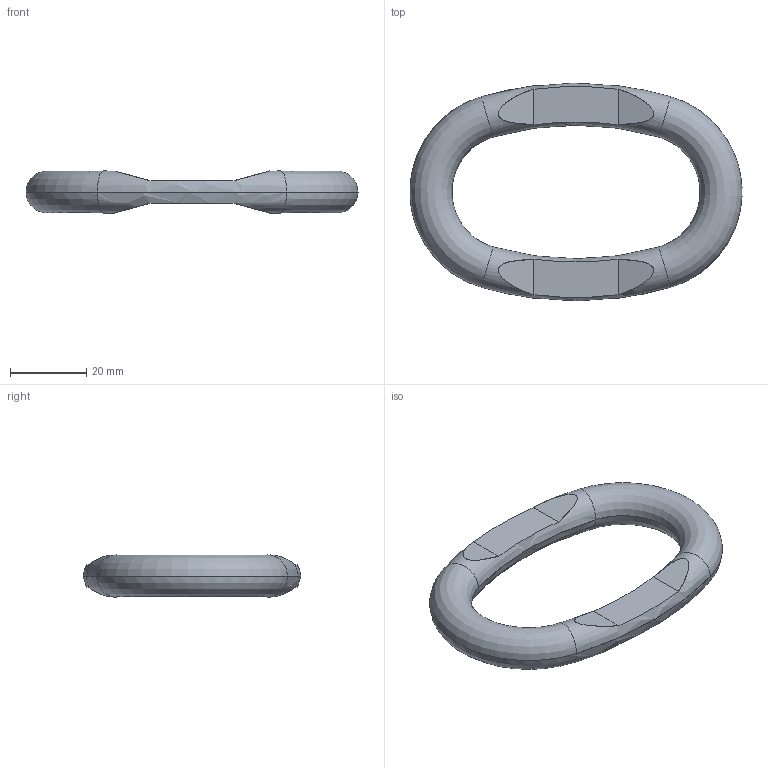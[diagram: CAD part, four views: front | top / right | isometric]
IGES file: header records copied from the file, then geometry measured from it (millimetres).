
Start section:  PTC IGES file: G:\TBM\Rehwagen\Dateitypen\Oval-Glieder\8502173.igs
Global section: file name: G:\TBM\Rehwagen\Dateitypen\Oval-Glieder\8502173.igs; native system: Pro/ENGINEER by Parametric Technology Corporation; preprocessor: 2001400; author: Rehwagena; organization: Unknown; date: 060221.130507; units: millimetre
Bounding box: 86.95 x 56.99 x 11 mm (x, y, z)
Surface area: 6718.4 mm2 (no closed solid volume)
Topology: 0 solids, 0 shells, 20 faces, 80 edges, 80 vertices
Faces by surface type: bspline 12, revolution 8
